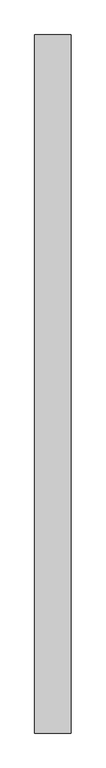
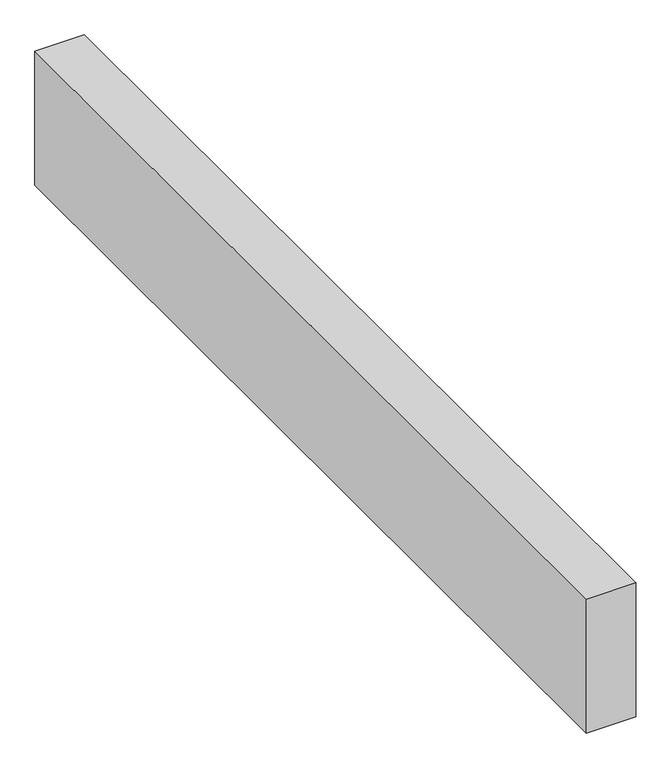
"""IFC4 building model written with IfcOpenShell, lengths in millimetres: proxy geometry."""

from ifc_helpers import new_model, si_unit, frame, origin, place, context, project, spatial, polyline, outline, extrude, source, transform, mapped, element, save


def structural_framing_b8469727(model_context):
    return source(origin(), model_context, "Body", "SweptSolid", [
        extrude(outline(polyline([(70.0, -1350.0), (-70.0, -1350.0), (-70.0, 1350.0), (70.0, 1350.0), (70.0, -1350.0)])), frame((0.0, 0.0, -400.0), z_axis=(0.0, 0.0, 1.0), x_axis=(1.0, 0.0, 0.0)), (0.0, 0.0, 1.0), 400.0),
    ])


if __name__ == "__main__":
    model = new_model("IFC4")
    model_context = context("Model", 3, world=origin())
    ifc_project = project(units=[si_unit("LENGTHUNIT", "METRE", prefix="MILLI")], contexts=[model_context])
    site = spatial("IfcSite", under=ifc_project)
    building = spatial("IfcBuilding", under=site)
    placement = place(None, origin())
    structural_framing_shape = structural_framing_b8469727(model_context)
    element("IfcBuildingElementProxy", 1, Name="Structural Framing", at=placement, inside=building, context=model_context, shape_type="MappedRepresentation", body=[
        mapped(structural_framing_shape, transform((0.0, 0.0, 0.0), x_axis=(1.0, 0.0, 0.0), y_axis=(0.0, 1.0, 0.0), z_axis=(0.0, 0.0, 1.0))),
    ])
    save(model, "model.ifc")
